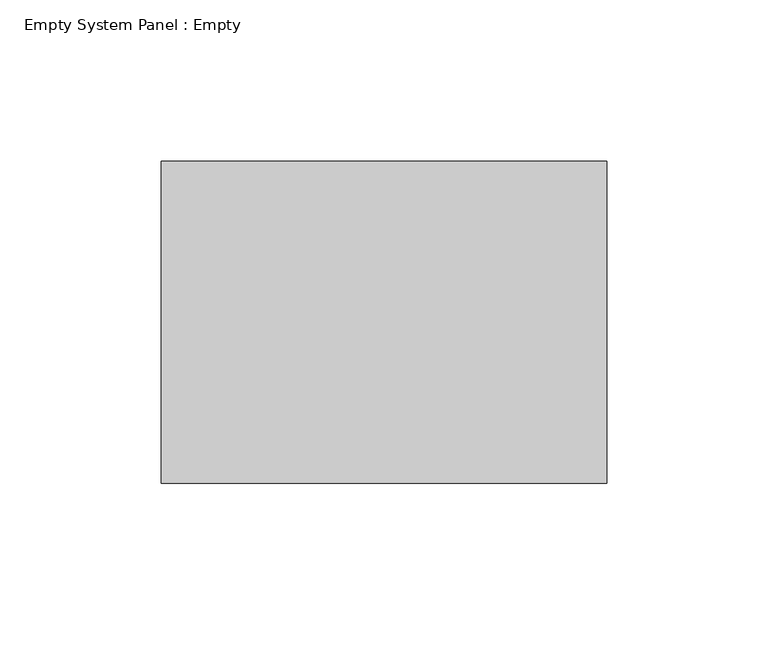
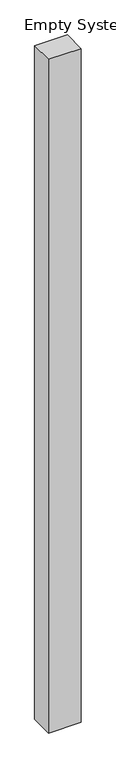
"""IFC4 building model written with IfcOpenShell, lengths in millimetres: plate geometry, Empty System Panel : Empty."""

import ifcopenshell
import ifcopenshell.guid

model = None  # the IFC model being written
_history = None  # IfcOwnerHistory: only IFC2X3 demands one
_inside = {}  # id of a spatial element -> (the spatial element, [elements in it])
_under = {}  # id of a project, library or spatial element -> (it, [spatial elements below it])
_declared = {}  # id of a project -> (the project, [libraries it declares])
_typed = {}  # id of a type object -> (the type object, [elements of that type])
_made_of = {}  # id of a material, layer set ... -> (it, [elements and type objects made of it])


def new_model(schema):
    """Start an empty IFC model of exactly this schema.

    Asked for "IFC4X3", IfcOpenShell would pick the latest addendum, in which some entities
    have other attributes; the version numbers below select the first issue.
    IFC2X3 requires an IfcOwnerHistory on every rooted entity: one is made here for all.
    """
    global model, _history
    if schema == "IFC4X3":
        model = ifcopenshell.file(schema_version=(4, 3, 0, 0))
    else:
        model = ifcopenshell.file(schema=schema)
    _inside.clear()
    _under.clear()
    _declared.clear()
    _typed.clear()
    _made_of.clear()
    _history = None
    if model.schema == "IFC2X3":
        org = make("IfcOrganization", Name="unknown")
        user = make(
            "IfcPersonAndOrganization",
            ThePerson=make("IfcPerson", FamilyName="unknown"),
            TheOrganization=org,
        )
        app = make(
            "IfcApplication",
            ApplicationDeveloper=org,
            Version="unknown",
            ApplicationFullName="unknown",
            ApplicationIdentifier="unknown",
        )
        _history = make(
            "IfcOwnerHistory",
            OwningUser=user,
            OwningApplication=app,
            ChangeAction="ADDED",
            CreationDate=0,
        )
    return model


def make(cls, **values):
    """One entity of the class cls with the attributes given. An attribute that is None is left unset."""
    return model.create_entity(
        cls, **{name: value for name, value in values.items() if value is not None}
    )


def rooted(cls, **values):
    """An entity with a GlobalId (a new one), such as an element, a storey or a relation."""
    return make(cls, GlobalId=ifcopenshell.guid.new(), OwnerHistory=_history, **values)


def si_unit(unit_type, name, prefix=None):
    """IfcSIUnit, for example si_unit("LENGTHUNIT", "METRE", prefix="MILLI")."""
    return make("IfcSIUnit", UnitType=unit_type, Prefix=prefix, Name=name)


def assignment(units):
    """IfcUnitAssignment: the units of a project."""
    return None if units is None else make("IfcUnitAssignment", Units=units)


def point(xyz):
    """IfcCartesianPoint."""
    return None if xyz is None else make("IfcCartesianPoint", Coordinates=xyz)


def direction(xyz):
    """IfcDirection."""
    return None if xyz is None else make("IfcDirection", DirectionRatios=xyz)


def frame(location, z_axis=None, x_axis=None):
    """IfcAxis2Placement3D, a coordinate frame: its origin and axes. An axis left out is left unset."""
    return make(
        "IfcAxis2Placement3D",
        Location=point(location),
        Axis=direction(z_axis),
        RefDirection=direction(x_axis),
    )


def origin():
    """The frame at (0, 0, 0) with its axes left unset."""
    return frame((0.0, 0.0, 0.0))


def origin_with_axes():
    """The frame at (0, 0, 0) with the z axis (0, 0, 1) and the x axis (1, 0, 0) written out."""
    return frame((0.0, 0.0, 0.0), z_axis=(0.0, 0.0, 1.0), x_axis=(1.0, 0.0, 0.0))


def place(relative_to, where):
    """IfcLocalPlacement: puts the frame where relative to a parent placement (None: the world)."""
    return make(
        "IfcLocalPlacement", PlacementRelTo=relative_to, RelativePlacement=where
    )


def context(
    kind, dimensions, precision=None, world=None, true_north=None, identifier=None
):
    """IfcGeometricRepresentationContext, for example the 3D "Model" context."""
    return make(
        "IfcGeometricRepresentationContext",
        ContextIdentifier=identifier,
        ContextType=kind,
        CoordinateSpaceDimension=dimensions,
        Precision=precision,
        WorldCoordinateSystem=world,
        TrueNorth=true_north,
    )


def project(units=None, contexts=None):
    """IfcProject with its units and contexts."""
    return rooted(
        "IfcProject",
        Name="project",
        RepresentationContexts=contexts,
        UnitsInContext=assignment(units),
    )


def spatial(cls, under=None, at=None, **own):
    """A site, building, storey or space (cls), placed at a placement, below another one or the project."""
    s = rooted(cls, ObjectPlacement=at, **own)
    if under is not None:
        _under.setdefault(under.id(), (under, []))[1].append(s)
    return s


def polyline(points):
    """IfcPolyline through the points."""
    return make("IfcPolyline", Points=[point(p) for p in points])


def outline(outer, holes=None, kind="AREA"):
    """IfcArbitraryClosedProfileDef: a profile drawn as a closed curve; with holes, ...WithVoids."""
    if holes is None:
        return make("IfcArbitraryClosedProfileDef", ProfileType=kind, OuterCurve=outer)
    return make(
        "IfcArbitraryProfileDefWithVoids",
        ProfileType=kind,
        OuterCurve=outer,
        InnerCurves=holes,
    )


def extrude(swept, where, along, depth):
    """IfcExtrudedAreaSolid: the profile swept, set in the frame where, extruded along a direction by depth."""
    return make(
        "IfcExtrudedAreaSolid",
        SweptArea=swept,
        Position=where,
        ExtrudedDirection=direction(along),
        Depth=depth,
    )


def shape(context_of_items, identifier, shape_type, items):
    """IfcShapeRepresentation: the items that make up one representation, for example the "Body"."""
    return make(
        "IfcShapeRepresentation",
        ContextOfItems=context_of_items,
        RepresentationIdentifier=identifier,
        RepresentationType=shape_type,
        Items=items,
    )


def source(mapping_origin, context_of_items, identifier, shape_type, items):
    """IfcRepresentationMap: a shape defined once, which mapped items show again and again."""
    return make(
        "IfcRepresentationMap",
        MappingOrigin=mapping_origin,
        MappedRepresentation=shape(context_of_items, identifier, shape_type, items),
    )


def transform(
    local_origin,
    x_axis=None,
    y_axis=None,
    z_axis=None,
    scale=None,
    scale2=None,
    scale3=None,
    uniform=True,
):
    """IfcCartesianTransformationOperator3D, or its non-uniform kind. x_axis, y_axis, z_axis: its Axis1, 2, 3."""
    if uniform:
        return make(
            "IfcCartesianTransformationOperator3D",
            Axis1=direction(x_axis),
            Axis2=direction(y_axis),
            LocalOrigin=point(local_origin),
            Scale=scale,
            Axis3=direction(z_axis),
        )
    return make(
        "IfcCartesianTransformationOperator3DnonUniform",
        Axis1=direction(x_axis),
        Axis2=direction(y_axis),
        LocalOrigin=point(local_origin),
        Scale=scale,
        Axis3=direction(z_axis),
        Scale2=scale2,
        Scale3=scale3,
    )


def mapped(mapping_source, mapping_target):
    """IfcMappedItem: shows the shape of a source again, moved by a transform."""
    return make(
        "IfcMappedItem", MappingSource=mapping_source, MappingTarget=mapping_target
    )


def made_of(thing, what):
    """Note that an element or type object is made of a material, layer set ...; save() writes the relation."""
    if what is not None:
        _made_of.setdefault(what.id(), (what, []))[1].append(thing)
    return thing


def element(
    cls,
    number,
    at=None,
    inside=None,
    cuts=None,
    type_object=None,
    material=None,
    context=None,
    identifier="Body",
    shape_type=None,
    held_by="IfcProductDefinitionShape",
    body=None,
    shapes=None,
    **own,
):
    """One element of the class cls, such as IfcWall. Its Tag is "e" and its number.

    at: its placement. inside: the storey or other place that contains it. cuts: it is an
    opening in that element (IfcRelVoidsElement). A single representation is given by context,
    identifier, shape_type and body (its items); several are given by shapes. held_by: the class
    of the entity that holds the representations. save() writes the other relations.
    """
    e = rooted(cls, Tag="e%d" % number, ObjectPlacement=at, **own)
    if body is not None:
        shapes = [shape(context, identifier, shape_type, body)]
    if shapes is not None:
        e.Representation = make(held_by, Representations=shapes)
    if inside is not None:
        _inside.setdefault(inside.id(), (inside, []))[1].append(e)
    if cuts is not None:
        rooted(
            "IfcRelVoidsElement", RelatingBuildingElement=cuts, RelatedOpeningElement=e
        )
    if type_object is not None:
        _typed.setdefault(type_object.id(), (type_object, []))[1].append(e)
    return made_of(e, material)


def aggregate(whole, parts):
    """IfcRelAggregates: a whole, such as a stair, and the parts it consists of."""
    return rooted("IfcRelAggregates", RelatingObject=whole, RelatedObjects=parts)


def save(model, path):
    """Write the relations noted so far, then the file.

    IfcRelAggregates (storeys below a building ...), IfcRelContainedInSpatialStructure (elements
    in a storey), IfcRelDefinesByType, IfcRelAssociatesMaterial and IfcRelDeclares: one each for
    every whole, place, type object, material and project.
    """
    for whole, parts in _under.values():
        aggregate(whole, parts)
    for where, things in _inside.values():
        rooted(
            "IfcRelContainedInSpatialStructure",
            RelatedElements=things,
            RelatingStructure=where,
        )
    for kind, things in _typed.values():
        rooted("IfcRelDefinesByType", RelatedObjects=things, RelatingType=kind)
    for what, things in _made_of.values():
        rooted("IfcRelAssociatesMaterial", RelatedObjects=things, RelatingMaterial=what)
    for by, libraries in _declared.values():
        rooted("IfcRelDeclares", RelatingContext=by, RelatedDefinitions=libraries)
    model.write(path)


def empty_system_panel_empty_b0a57c37(model_context):
    return source(origin(), model_context, "Body", "SweptSolid", [
        extrude(outline(polyline([(69.2500002, 50.0), (-69.2500002, 50.0), (-69.2500002, 150.0), (69.2500002, 150.0), (69.2500002, 50.0)])), origin_with_axes(), (0.0, 0.0, 1.0), 3000.0),
    ])


if __name__ == "__main__":
    model = new_model("IFC4")
    model_context = context("Model", 3, world=origin())
    ifc_project = project(units=[si_unit("LENGTHUNIT", "METRE", prefix="MILLI")], contexts=[model_context])
    site = spatial("IfcSite", under=ifc_project)
    building = spatial("IfcBuilding", under=site)
    placement = place(None, origin())
    empty_system_panel_empty_shape = empty_system_panel_empty_b0a57c37(model_context)
    element("IfcPlate", 1, ObjectType="Empty System Panel : Empty", at=placement, inside=building, context=model_context, shape_type="MappedRepresentation", body=[
        mapped(empty_system_panel_empty_shape, transform((0.0, 0.0, 0.0), x_axis=(1.0, 0.0, 0.0), y_axis=(0.0, 1.0, 0.0), z_axis=(0.0, 0.0, 1.0))),
    ])
    save(model, "model.ifc")
